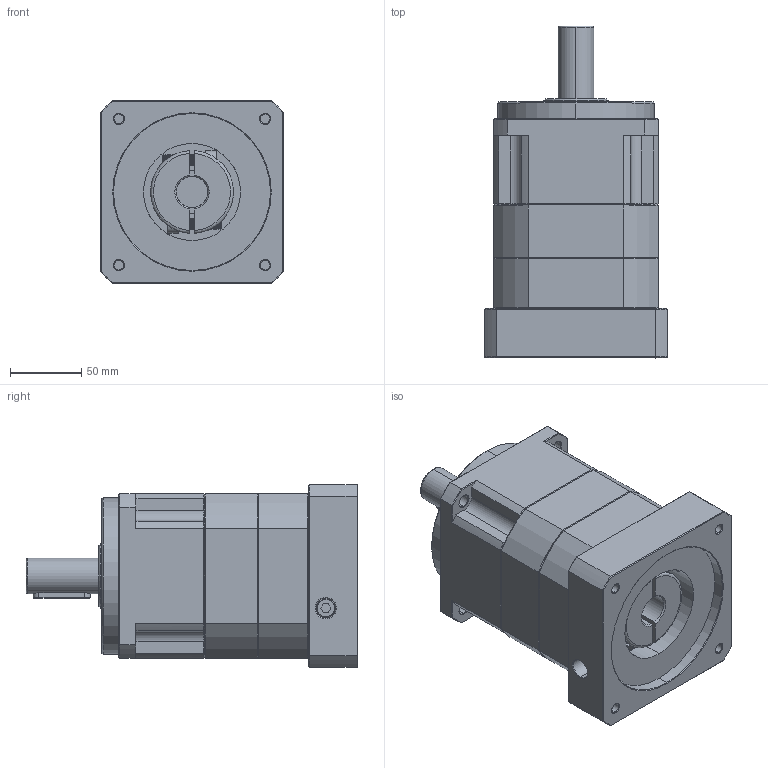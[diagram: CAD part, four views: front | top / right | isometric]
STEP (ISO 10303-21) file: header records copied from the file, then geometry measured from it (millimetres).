
FILE_DESCRIPTION (( 'STEP AP214' ), '1' );
FILE_NAME ('ZPB115-D25-L2-P1-22-110-145-M8.step', '2024-06-11T19:28:09', ( 'Windows 蚚誧' ), ( 'Organization' ), 'SwSTEP 2.0', 'SolidWorks 2016', '' );
FILE_SCHEMA (( 'AUTOMOTIVE_DESIGN' ));
Length unit declared in the file: millimetre
Products named in the file (1): ZPB115-D25-L2-P1-22-110-145-M8
Bounding box: 128 x 232.5 x 128 mm (x, y, z)
Surface area: 153642.6 mm2 (no closed solid volume)
Topology: 0 solids, 29 shells, 1806 faces, 4883 edges, 3137 vertices
Faces by surface type: plane 928, bspline 381, cone 274, cylinder 223
Full cylindrical faces by diameter (mm): 10.2 x1
Entity records: 97882 total; most frequent: CARTESIAN_POINT 48870, ORIENTED_EDGE 9736, DIRECTION 7448, EDGE_CURVE 4877, VECTOR 3160, LINE 3160, VERTEX_POINT 3135, AXIS2_PLACEMENT_3D 2144
